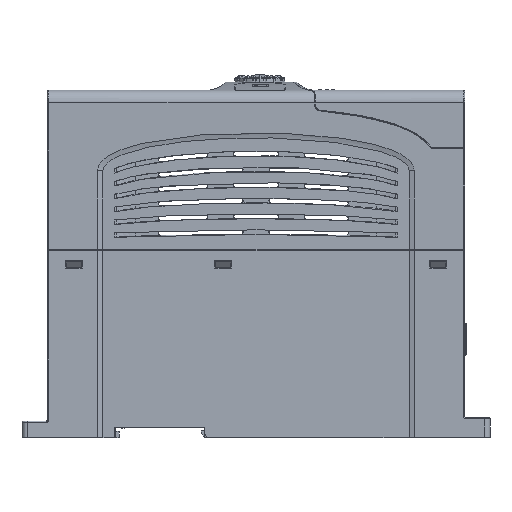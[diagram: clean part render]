
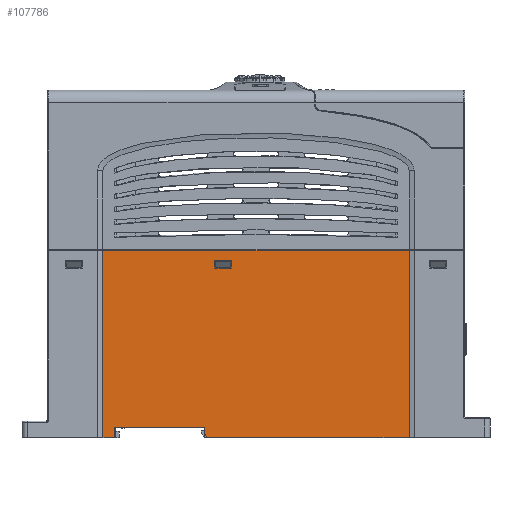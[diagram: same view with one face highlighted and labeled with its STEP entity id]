
A CAD part, left-side view. The second image highlights one B-rep face of the part: STEP entity #107786.
In plain terms, the highlighted planar face has unit normal (-1, 0, 0).
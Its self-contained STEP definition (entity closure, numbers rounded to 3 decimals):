
#72131=DIRECTION('',(0.,-1.,0.));
#72132=VECTOR('',#72131,4.6);
#72133=CARTESIAN_POINT('',(-39.5,143.,-136.5));
#72134=LINE('',#72133,#72132);
#72729=DIRECTION('',(0.,0.447,0.894));
#72730=VECTOR('',#72729,2.236);
#72731=CARTESIAN_POINT('',(-39.5,102.,-136.5));
#72732=LINE('',#72731,#72730);
#72733=DIRECTION('',(0.,0.,1.));
#72734=VECTOR('',#72733,2.);
#72735=CARTESIAN_POINT('',(-39.5,103.,-134.5));
#72736=LINE('',#72735,#72734);
#72737=DIRECTION('',(0.,0.,-1.));
#72738=VECTOR('',#72737,4.);
#72739=CARTESIAN_POINT('',(-39.5,138.4,-132.5));
#72740=LINE('',#72739,#72738);
#72741=DIRECTION('',(0.,0.,1.));
#72742=VECTOR('',#72741,74.);
#72743=CARTESIAN_POINT('',(-39.5,143.,-136.5));
#72744=LINE('',#72743,#72742);
#72745=DIRECTION('',(0.,0.,1.));
#72746=VECTOR('',#72745,3.);
#72747=CARTESIAN_POINT('',(-39.5,92.25,-69.5));
#72748=LINE('',#72747,#72746);
#72749=DIRECTION('',(0.,1.,0.));
#72750=VECTOR('',#72749,6.5);
#72751=CARTESIAN_POINT('',(-39.5,92.25,-66.5));
#72752=LINE('',#72751,#72750);
#72753=DIRECTION('',(0.,0.,-1.));
#72754=VECTOR('',#72753,3.);
#72755=CARTESIAN_POINT('',(-39.5,98.75,-66.5));
#72756=LINE('',#72755,#72754);
#72757=DIRECTION('',(0.,-1.,0.));
#72758=VECTOR('',#72757,6.5);
#72759=CARTESIAN_POINT('',(-39.5,98.75,-69.5));
#72760=LINE('',#72759,#72758);
#72875=DIRECTION('',(0.,-1.,0.));
#72876=VECTOR('',#72875,80.);
#72877=CARTESIAN_POINT('',(-39.5,102.,-136.5));
#72878=LINE('',#72877,#72876);
#73634=DIRECTION('',(0.,0.,1.));
#73635=VECTOR('',#73634,74.);
#73636=CARTESIAN_POINT('',(-39.5,22.,-136.5));
#73637=LINE('',#73636,#73635);
#73718=DIRECTION('',(0.,1.,0.));
#73719=VECTOR('',#73718,121.);
#73720=CARTESIAN_POINT('',(-39.5,22.,-62.5));
#73721=LINE('',#73720,#73719);
#82958=DIRECTION('',(0.,-1.,0.));
#82959=VECTOR('',#82958,35.4);
#82960=CARTESIAN_POINT('',(-39.5,138.4,-132.5));
#82961=LINE('',#82960,#82959);
#99571=CARTESIAN_POINT('',(-39.5,143.,-136.5));
#99572=VERTEX_POINT('',#99571);
#99573=CARTESIAN_POINT('',(-39.5,138.4,-136.5));
#99574=VERTEX_POINT('',#99573);
#99847=CARTESIAN_POINT('',(-39.5,138.4,-132.5));
#99848=VERTEX_POINT('',#99847);
#99849=CARTESIAN_POINT('',(-39.5,102.,-136.5));
#99850=CARTESIAN_POINT('',(-39.5,103.,-134.5));
#99851=VERTEX_POINT('',#99849);
#99852=VERTEX_POINT('',#99850);
#99853=CARTESIAN_POINT('',(-39.5,103.,-132.5));
#99854=VERTEX_POINT('',#99853);
#99855=CARTESIAN_POINT('',(-39.5,143.,-62.5));
#99856=VERTEX_POINT('',#99855);
#99857=CARTESIAN_POINT('',(-39.5,22.,-62.5));
#99858=VERTEX_POINT('',#99857);
#99859=CARTESIAN_POINT('',(-39.5,22.,-136.5));
#99860=VERTEX_POINT('',#99859);
#99861=CARTESIAN_POINT('',(-39.5,92.25,-69.5));
#99862=CARTESIAN_POINT('',(-39.5,92.25,-66.5));
#99863=VERTEX_POINT('',#99861);
#99864=VERTEX_POINT('',#99862);
#99865=CARTESIAN_POINT('',(-39.5,98.75,-66.5));
#99866=VERTEX_POINT('',#99865);
#99867=CARTESIAN_POINT('',(-39.5,98.75,-69.5));
#99868=VERTEX_POINT('',#99867);
#107753=CARTESIAN_POINT('',(-39.5,82.5,-99.5));
#107754=DIRECTION('',(1.,0.,0.));
#107755=DIRECTION('',(0.,-1.,0.));
#107756=AXIS2_PLACEMENT_3D('',#107753,#107754,#107755);
#107757=PLANE('',#107756);
#107759=ORIENTED_EDGE('',*,*,#107758,.T.);
#107761=ORIENTED_EDGE('',*,*,#107760,.T.);
#107763=ORIENTED_EDGE('',*,*,#107762,.F.);
#107764=ORIENTED_EDGE('',*,*,#107745,.T.);
#107765=ORIENTED_EDGE('',*,*,#107116,.F.);
#107767=ORIENTED_EDGE('',*,*,#107766,.T.);
#107769=ORIENTED_EDGE('',*,*,#107768,.F.);
#107771=ORIENTED_EDGE('',*,*,#107770,.F.);
#107773=ORIENTED_EDGE('',*,*,#107772,.F.);
#107774=EDGE_LOOP('',(#107759,#107761,#107763,#107764,#107765,#107767,#107769,
#107771,#107773));
#107775=FACE_OUTER_BOUND('',#107774,.F.);
#107777=ORIENTED_EDGE('',*,*,#107776,.T.);
#107779=ORIENTED_EDGE('',*,*,#107778,.T.);
#107781=ORIENTED_EDGE('',*,*,#107780,.T.);
#107783=ORIENTED_EDGE('',*,*,#107782,.T.);
#107784=EDGE_LOOP('',(#107777,#107779,#107781,#107783));
#107785=FACE_BOUND('',#107784,.F.);
#107116=EDGE_CURVE('',#99572,#99574,#72134,.T.);
#107745=EDGE_CURVE('',#99848,#99574,#72740,.T.);
#107758=EDGE_CURVE('',#99851,#99852,#72732,.T.);
#107760=EDGE_CURVE('',#99852,#99854,#72736,.T.);
#107762=EDGE_CURVE('',#99848,#99854,#82961,.T.);
#107766=EDGE_CURVE('',#99572,#99856,#72744,.T.);
#107768=EDGE_CURVE('',#99858,#99856,#73721,.T.);
#107770=EDGE_CURVE('',#99860,#99858,#73637,.T.);
#107772=EDGE_CURVE('',#99851,#99860,#72878,.T.);
#107776=EDGE_CURVE('',#99863,#99864,#72748,.T.);
#107778=EDGE_CURVE('',#99864,#99866,#72752,.T.);
#107780=EDGE_CURVE('',#99866,#99868,#72756,.T.);
#107782=EDGE_CURVE('',#99868,#99863,#72760,.T.);
#107786=ADVANCED_FACE('',(#107775,#107785),#107757,.F.);
